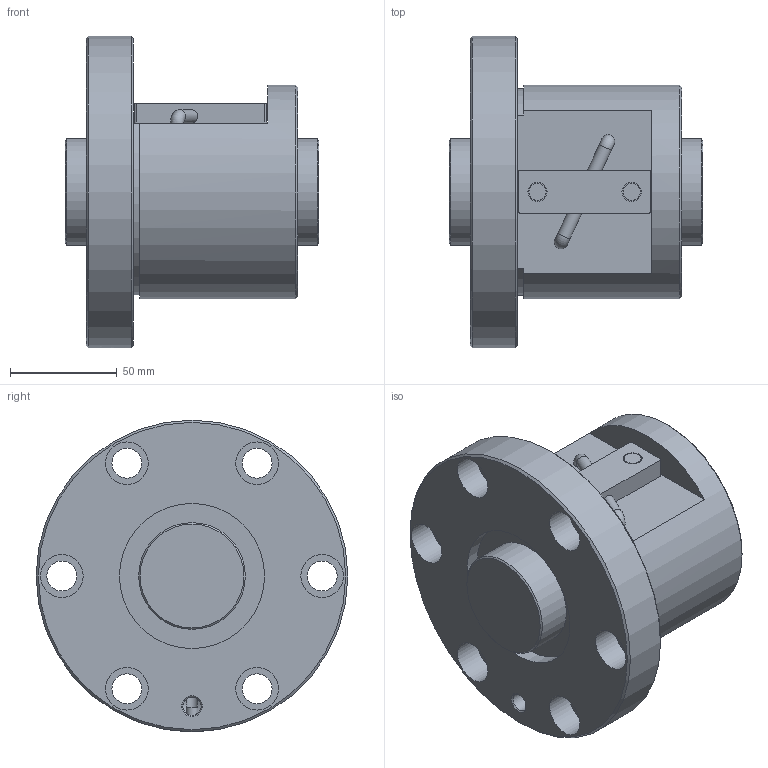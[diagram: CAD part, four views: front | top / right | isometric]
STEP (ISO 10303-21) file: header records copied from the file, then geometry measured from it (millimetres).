
FILE_DESCRIPTION(/* description */ ('STEP AP203'),/* implementation_level */ '2;1');
FILE_NAME(/* name */ 'BNF5012V-3.5RRG1+119LC0_000_rev',/* time_stamp */ '2024-08-06T09:09:50+02:00',/* author */ ('License CC BY-ND 4.0'),/* organization */ ('CADENAS'),/* preprocessor_version */ 'ST-DEVELOPER v19.3',/* originating_system */ 'PARTsolutions',/* authorisation */ ' ');
FILE_SCHEMA (('CONFIG_CONTROL_DESIGN'));
Length unit declared in the file: millimetre
Products named in the file (3): BNF5012V-3.5RRG1+119LC0_000_rev; BNF 5012-3.5RR000 Shaft; BNF 5012-3.5RR Nut
Assembly tree (2 placements, depth 2):
  BNF5012V-3.5RRG1+119LC0_000_rev
    BNF 5012-3.5RR000 Shaft
    BNF 5012-3.5RR Nut
Bounding box: 119 x 146 x 146 mm (x, y, z)
Volume: 907497.4 mm3; surface area: 112736.7 mm2
Topology: 2 solids, 2 shells, 70 faces, 152 edges, 99 vertices
Faces by surface type: cylinder 33, plane 27, cone 8, torus 2
Full cylindrical faces by diameter (mm): 5.5 x2, 6.198 x2, 8 x2, 8.566 x1, 9 x2, 14 x6, 20 x6, 50 x2, 68 x2, 100 x1, 146 x1
Entity records: 1813 total; most frequent: CARTESIAN_POINT 323, DIRECTION 316, ORIENTED_EDGE 210, AXIS2_PLACEMENT_3D 146, EDGE_LOOP 140, FACE_BOUND 140, EDGE_CURVE 105, VERTEX_POINT 89
